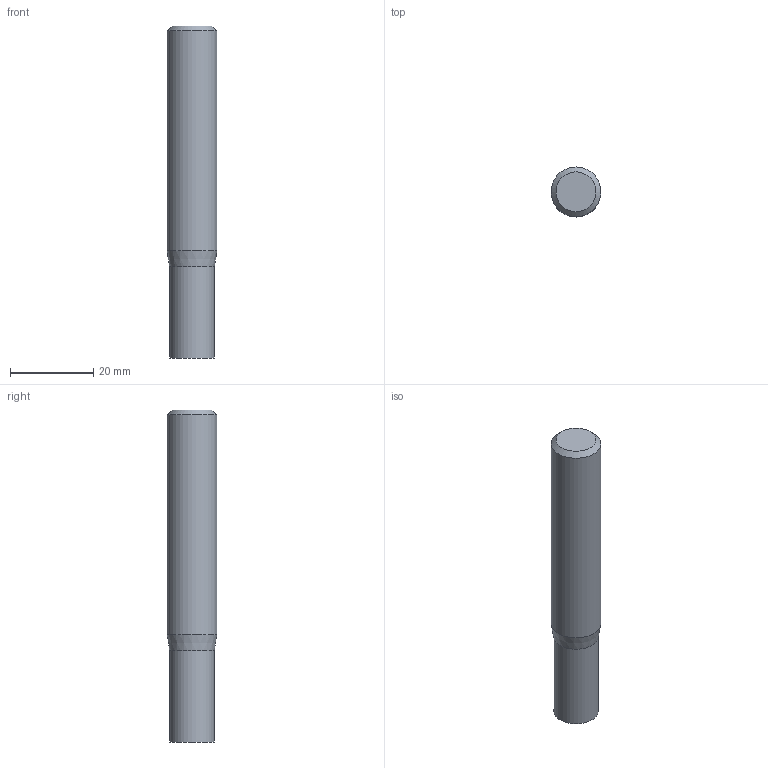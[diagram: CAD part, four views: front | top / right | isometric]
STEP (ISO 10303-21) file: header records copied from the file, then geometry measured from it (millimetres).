
FILE_DESCRIPTION((''),'2;1');
FILE_NAME('C:\Users\nsx150\AppData\Local\Temp\Mastercam 2021\98T1Q6BTT1\TEMP.step','2021-10-21T14:50:16',(''),(''),'STEP Write','Mastercam 2021 ... CNC Software, Inc.','');
FILE_SCHEMA(('AUTOMOTIVE_DESIGN'));
Length unit declared in the file: millimetre
Products named in the file (1): None
Bounding box: 12 x 12 x 80 mm (x, y, z)
Volume: 8508.3 mm3; surface area: 3287.1 mm2
Topology: 2 solids, 2 shells, 8 faces, 10 edges, 6 vertices
Faces by surface type: plane 4, cylinder 2, cone 2
Full cylindrical faces by diameter (mm): 10.8 x1, 12 x1
Entity records: 190 total; most frequent: DIRECTION 32, CARTESIAN_POINT 22, AXIS2_PLACEMENT_3D 16, ORIENTED_EDGE 12, EDGE_LOOP 12, STYLED_ITEM 11, ADVANCED_FACE 8, VERTEX_POINT 6
